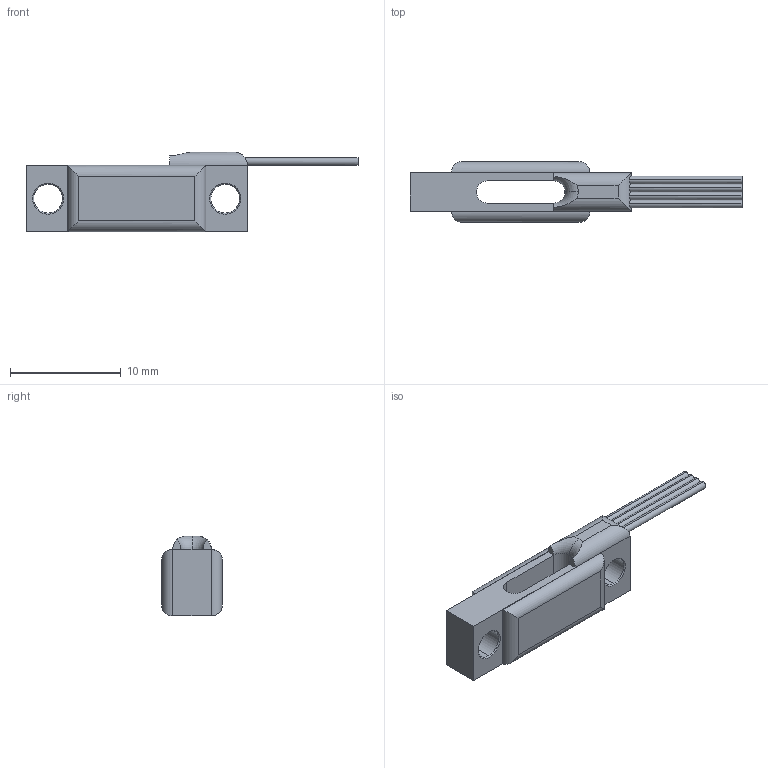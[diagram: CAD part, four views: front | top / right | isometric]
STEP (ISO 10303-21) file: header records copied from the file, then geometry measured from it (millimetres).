
FILE_DESCRIPTION (( 'STEP AP203' ), '1' );
FILE_NAME ('FMZJ.STEP', '2024-07-16T07:37:15', ( '' ), ( '' ), 'SwSTEP 2.0', 'SolidWorks 2019', '' );
FILE_SCHEMA (( 'CONFIG_CONTROL_DESIGN' ));
Length unit declared in the file: millimetre
Products named in the file (1): FMZJ
Bounding box: 30 x 5.5 x 7.2 mm (x, y, z)
Volume: 464 mm3; surface area: 980.2 mm2
Topology: 3 solids, 3 shells, 63 faces, 142 edges, 84 vertices
Faces by surface type: plane 27, cylinder 26, cone 8, torus 2
Entity records: 1875 total; most frequent: CARTESIAN_POINT 412, DIRECTION 288, ORIENTED_EDGE 284, EDGE_CURVE 142, AXIS2_PLACEMENT_3D 102, VECTOR 84, LINE 84, VERTEX_POINT 84
